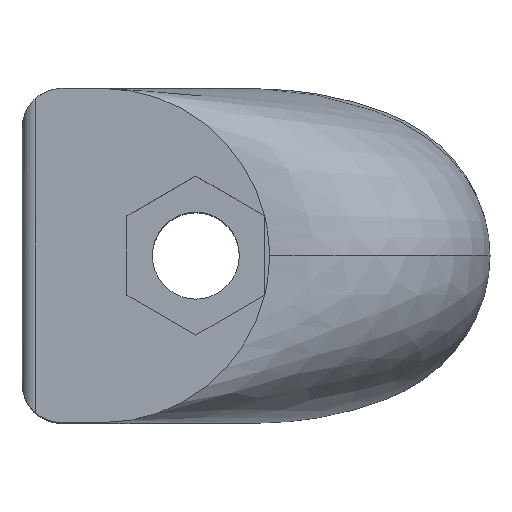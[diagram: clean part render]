
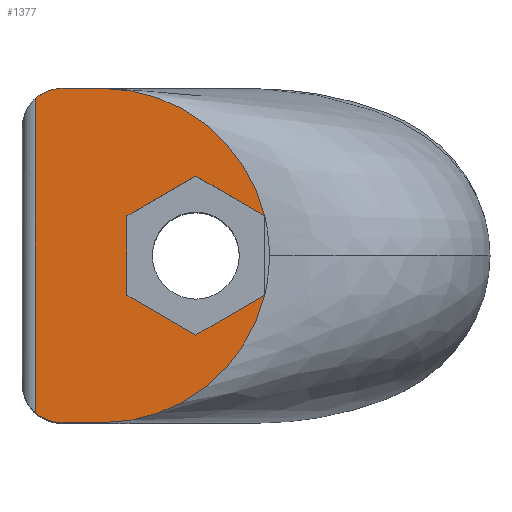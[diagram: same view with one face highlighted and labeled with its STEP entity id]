
A CAD part, top view. The second image highlights one B-rep face of the part: STEP entity #1377.
In plain terms, the highlighted planar face has unit normal (0, 0, 1) as drawn and (0, 0, -1) by its records, which use the part's own axes.
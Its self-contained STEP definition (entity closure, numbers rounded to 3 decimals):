
#6 = PLANE ( 'NONE',  #1088 ) ;
#15 = DIRECTION ( 'NONE',  ( 0., 0., -1. ) ) ;
#17 = EDGE_CURVE ( 'NONE', #1382, #391, #1061, .T. ) ;
#46 = ORIENTED_EDGE ( 'NONE', *, *, #1641, .F. ) ;
#48 = CARTESIAN_POINT ( 'NONE',  ( 5.148, 2.966, -20.15 ) ) ;
#86 = CARTESIAN_POINT ( 'NONE',  ( 0., -5.947, -20.15 ) ) ;
#97 = EDGE_CURVE ( 'NONE', #132, #150, #1137, .T. ) ;
#119 = LINE ( 'NONE', #135, #1578 ) ;
#121 = CIRCLE ( 'NONE', #147, 12.5 ) ;
#132 = VERTEX_POINT ( 'NONE', #787 ) ;
#135 = CARTESIAN_POINT ( 'NONE',  ( 5.15, -2.973, -20.15 ) ) ;
#147 = AXIS2_PLACEMENT_3D ( 'NONE', #1458, #1205, #942 ) ;
#150 = VERTEX_POINT ( 'NONE', #552 ) ;
#154 = ORIENTED_EDGE ( 'NONE', *, *, #893, .F. ) ;
#156 = ORIENTED_EDGE ( 'NONE', *, *, #1005, .F. ) ;
#157 = EDGE_LOOP ( 'NONE', ( #594, #1273, #1429, #225, #296, #154, #156, #1618, #1426, #270, #1361, #46 ) ) ;
#196 = LINE ( 'NONE', #1619, #250 ) ;
#199 = EDGE_CURVE ( 'NONE', #1498, #1382, #409, .T. ) ;
#217 = CARTESIAN_POINT ( 'NONE',  ( 5.146, -2.962, -20.15 ) ) ;
#225 = ORIENTED_EDGE ( 'NONE', *, *, #17, .F. ) ;
#230 = CARTESIAN_POINT ( 'NONE',  ( -12., 11.736, -20.15 ) ) ;
#234 = LINE ( 'NONE', #1135, #1386 ) ;
#250 = VECTOR ( 'NONE', #1240, 1000. ) ;
#270 = ORIENTED_EDGE ( 'NONE', *, *, #1351, .F. ) ;
#271 = DIRECTION ( 'NONE',  ( -1., 0., 0. ) ) ;
#281 = LINE ( 'NONE', #1310, #1034 ) ;
#296 = ORIENTED_EDGE ( 'NONE', *, *, #199, .F. ) ;
#310 = CARTESIAN_POINT ( 'NONE',  ( -5.15, 2.973, -20.15 ) ) ;
#311 = VERTEX_POINT ( 'NONE', #736 ) ;
#336 = VECTOR ( 'NONE', #1112, 1000. ) ;
#366 = DIRECTION ( 'NONE',  ( 0., 0., -1. ) ) ;
#379 = DIRECTION ( 'NONE',  ( -1., 0., 0. ) ) ;
#391 = VERTEX_POINT ( 'NONE', #1259 ) ;
#396 = VERTEX_POINT ( 'NONE', #217 ) ;
#402 = DIRECTION ( 'NONE',  ( 0., 0., -1. ) ) ;
#409 = CIRCLE ( 'NONE', #1654, 12.5 ) ;
#455 = CARTESIAN_POINT ( 'NONE',  ( 0., 5.947, -20.15 ) ) ;
#527 = EDGE_CURVE ( 'NONE', #311, #845, #234, .T. ) ;
#552 = CARTESIAN_POINT ( 'NONE',  ( -12., -11.736, -20.15 ) ) ;
#558 = EDGE_CURVE ( 'NONE', #769, #391, #1271, .T. ) ;
#594 = ORIENTED_EDGE ( 'NONE', *, *, #97, .T. ) ;
#610 = VERTEX_POINT ( 'NONE', #1664 ) ;
#626 = EDGE_CURVE ( 'NONE', #150, #769, #987, .T. ) ;
#706 = AXIS2_PLACEMENT_3D ( 'NONE', #1187, #402, #271 ) ;
#711 = VECTOR ( 'NONE', #806, 1000. ) ;
#736 = CARTESIAN_POINT ( 'NONE',  ( -5.15, -2.973, -20.15 ) ) ;
#739 = CARTESIAN_POINT ( 'NONE',  ( -10., 9.5, -20.15 ) ) ;
#757 = VECTOR ( 'NONE', #1122, 1000. ) ;
#769 = VERTEX_POINT ( 'NONE', #230 ) ;
#787 = CARTESIAN_POINT ( 'NONE',  ( -10., -12.5, -20.15 ) ) ;
#806 = DIRECTION ( 'NONE',  ( -0.866, 0.5, 0. ) ) ;
#816 = DIRECTION ( 'NONE',  ( 0., 0., 1. ) ) ;
#845 = VERTEX_POINT ( 'NONE', #310 ) ;
#873 = DIRECTION ( 'NONE',  ( -1., 0., 0. ) ) ;
#880 = DIRECTION ( 'NONE',  ( 0., 1., 0. ) ) ;
#891 = AXIS2_PLACEMENT_3D ( 'NONE', #739, #366, #873 ) ;
#893 = EDGE_CURVE ( 'NONE', #1027, #1498, #281, .T. ) ;
#942 = DIRECTION ( 'NONE',  ( -1., 0., 0. ) ) ;
#963 = CARTESIAN_POINT ( 'NONE',  ( -7., 0., -20.15 ) ) ;
#987 = LINE ( 'NONE', #1628, #757 ) ;
#1005 = EDGE_CURVE ( 'NONE', #845, #1027, #196, .T. ) ;
#1017 = VECTOR ( 'NONE', #1032, 1000. ) ;
#1027 = VERTEX_POINT ( 'NONE', #455 ) ;
#1032 = DIRECTION ( 'NONE',  ( -1., 0., 0. ) ) ;
#1034 = VECTOR ( 'NONE', #1213, 1000. ) ;
#1061 = LINE ( 'NONE', #1545, #1017 ) ;
#1088 = AXIS2_PLACEMENT_3D ( 'NONE', #1145, #15, #379 ) ;
#1094 = LINE ( 'NONE', #1611, #336 ) ;
#1112 = DIRECTION ( 'NONE',  ( 1., 0., 0. ) ) ;
#1122 = DIRECTION ( 'NONE',  ( 0., 1., 0. ) ) ;
#1135 = CARTESIAN_POINT ( 'NONE',  ( -5.15, -2.973, -20.15 ) ) ;
#1136 = DIRECTION ( 'NONE',  ( -0.866, -0.5, 0. ) ) ;
#1137 = CIRCLE ( 'NONE', #706, 3. ) ;
#1145 = CARTESIAN_POINT ( 'NONE',  ( -7., 0., -20.15 ) ) ;
#1160 = FACE_OUTER_BOUND ( 'NONE', #157, .T. ) ;
#1187 = CARTESIAN_POINT ( 'NONE',  ( -10., -9.5, -20.15 ) ) ;
#1201 = DIRECTION ( 'NONE',  ( -1., 0., 0. ) ) ;
#1205 = DIRECTION ( 'NONE',  ( 0., 0., 1. ) ) ;
#1213 = DIRECTION ( 'NONE',  ( 0.866, -0.5, 0. ) ) ;
#1240 = DIRECTION ( 'NONE',  ( 0.866, 0.5, 0. ) ) ;
#1259 = CARTESIAN_POINT ( 'NONE',  ( -10., 12.5, -20.15 ) ) ;
#1271 = CIRCLE ( 'NONE', #891, 3. ) ;
#1273 = ORIENTED_EDGE ( 'NONE', *, *, #626, .T. ) ;
#1310 = CARTESIAN_POINT ( 'NONE',  ( 0., 5.947, -20.15 ) ) ;
#1351 = EDGE_CURVE ( 'NONE', #396, #1554, #119, .T. ) ;
#1361 = ORIENTED_EDGE ( 'NONE', *, *, #1422, .F. ) ;
#1377 = ADVANCED_FACE ( 'NONE', ( #1160 ), #6, .T. ) ;
#1382 = VERTEX_POINT ( 'NONE', #1472 ) ;
#1386 = VECTOR ( 'NONE', #880, 1000. ) ;
#1391 = EDGE_CURVE ( 'NONE', #1554, #311, #1464, .T. ) ;
#1422 = EDGE_CURVE ( 'NONE', #610, #396, #121, .T. ) ;
#1426 = ORIENTED_EDGE ( 'NONE', *, *, #1391, .F. ) ;
#1429 = ORIENTED_EDGE ( 'NONE', *, *, #558, .T. ) ;
#1438 = CARTESIAN_POINT ( 'NONE',  ( 0., -5.947, -20.15 ) ) ;
#1458 = CARTESIAN_POINT ( 'NONE',  ( -7., 0., -20.15 ) ) ;
#1464 = LINE ( 'NONE', #1438, #711 ) ;
#1472 = CARTESIAN_POINT ( 'NONE',  ( -7., 12.5, -20.15 ) ) ;
#1498 = VERTEX_POINT ( 'NONE', #48 ) ;
#1545 = CARTESIAN_POINT ( 'NONE',  ( -13., 12.5, -20.15 ) ) ;
#1554 = VERTEX_POINT ( 'NONE', #86 ) ;
#1578 = VECTOR ( 'NONE', #1136, 1000. ) ;
#1611 = CARTESIAN_POINT ( 'NONE',  ( -13., -12.5, -20.15 ) ) ;
#1618 = ORIENTED_EDGE ( 'NONE', *, *, #527, .F. ) ;
#1619 = CARTESIAN_POINT ( 'NONE',  ( -5.15, 2.973, -20.15 ) ) ;
#1628 = CARTESIAN_POINT ( 'NONE',  ( -12., 0., -20.15 ) ) ;
#1641 = EDGE_CURVE ( 'NONE', #132, #610, #1094, .T. ) ;
#1654 = AXIS2_PLACEMENT_3D ( 'NONE', #963, #816, #1201 ) ;
#1664 = CARTESIAN_POINT ( 'NONE',  ( -7., -12.5, -20.15 ) ) ;
